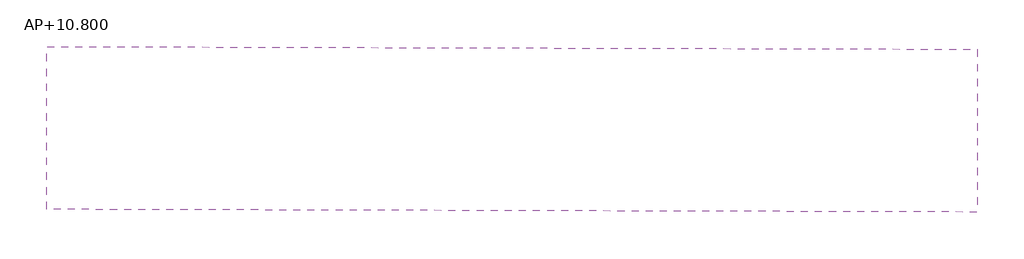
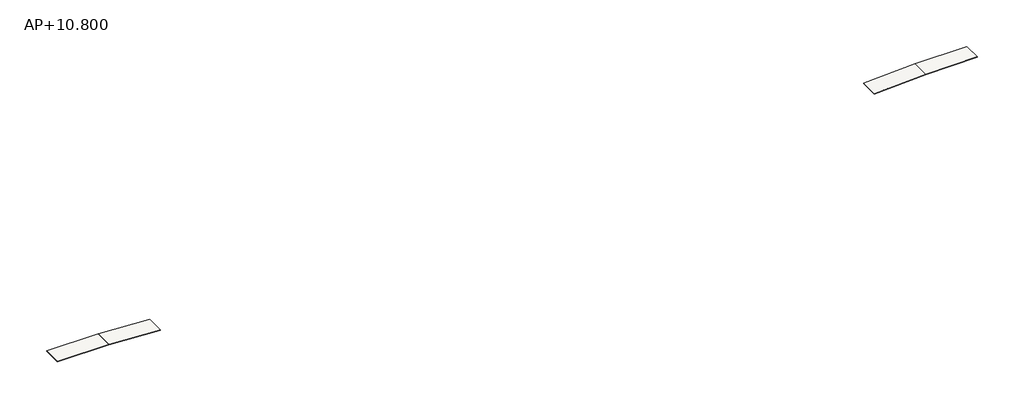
# One storey: 1 slab.
"""IFC4 building model written with IfcOpenShell, lengths in millimetres."""

from ifc_helpers import new_model, si_unit, origin, place, context, project, spatial, transform, mapped, element, save
from components import slab_016cc149

model = new_model("IFC4")

# Units and contexts
model_context = context("Model", 3, world=origin())
ifc_project = project(units=[si_unit("LENGTHUNIT", "METRE", prefix="MILLI")], contexts=[model_context])

# Site, building, storey
site = spatial("IfcSite", under=ifc_project)
building = spatial("IfcBuilding", under=site)
storey = spatial("IfcBuildingStorey", under=building, Name="AP+10.800", Elevation=10800.0)

# Slab
placement = place(None, origin())
slab_shape = slab_016cc149(model_context)
element("IfcSlab", 1, ObjectType="アスファルト : アスファルト", at=placement, inside=storey, context=model_context, shape_type="MappedRepresentation", body=[
    mapped(slab_shape, transform((0.0, 0.0, 0.0), x_axis=(1.0, 0.0, 0.0), y_axis=(0.0, 1.0, 0.0), z_axis=(0.0, 0.0, 1.0))),
])

save(model, "model.ifc")
